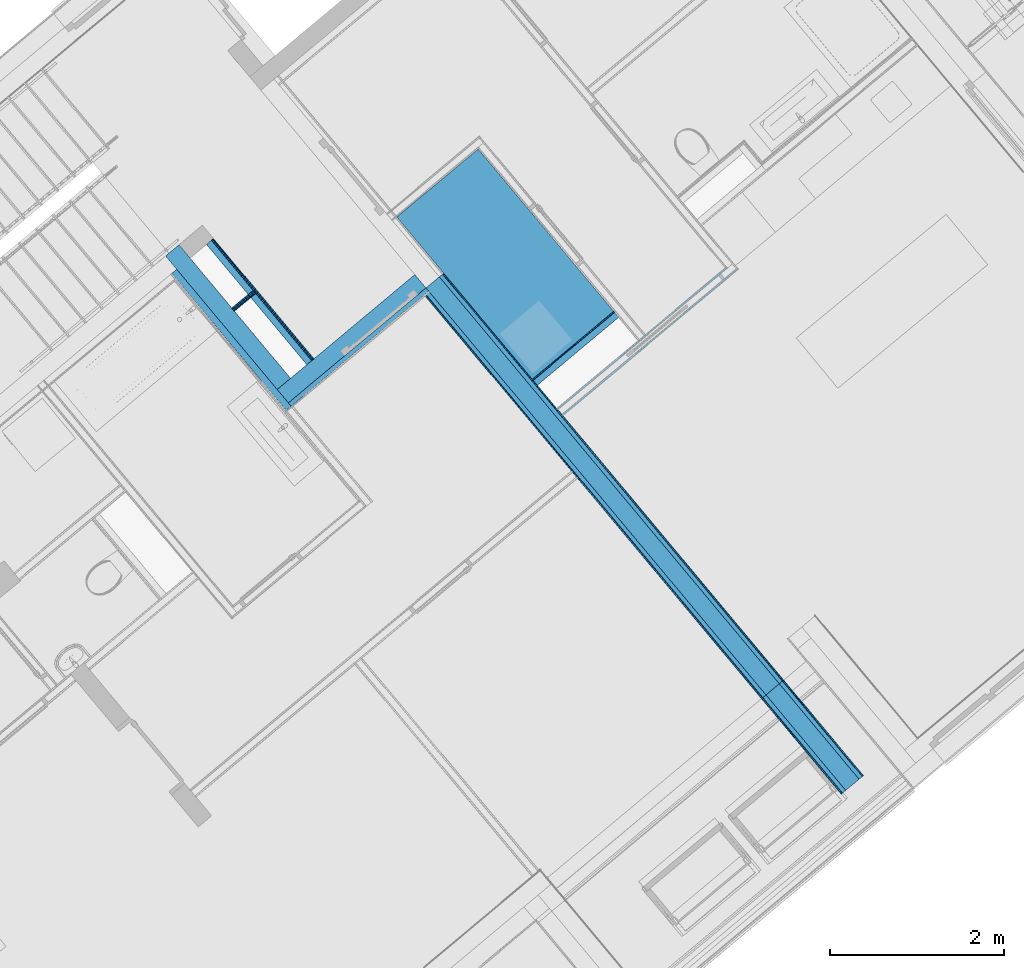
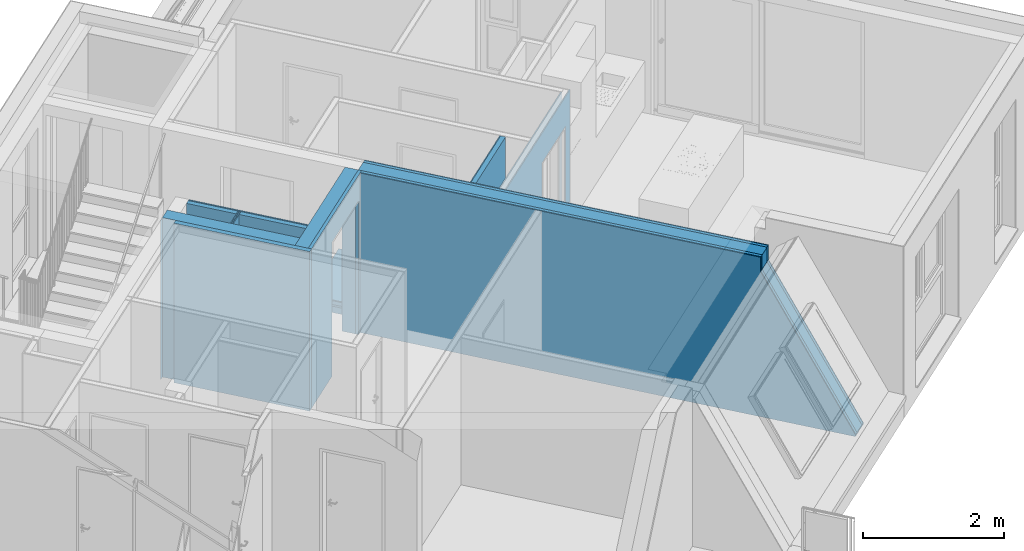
# One storey, part 27 of 58: 21 building element parts, 2 openings, 8 elements without a shape of their own, plus 2 elements that do not belong to this part.
"""IFC4 building model written with IfcOpenShell, lengths in metres."""

from ifc_helpers import new_model, entity, si_unit, converted_unit, derived_unit, direction, frame, origin_with_axes, place, context, subcontext, project, spatial, polygons, material, type_object, element, aggregate, save


model = new_model("IFC4")

# Units and contexts
model_context = context("Model", 3, precision=1e-05, world=origin_with_axes(), true_north=direction((0.0, 1.0)))
body_context = subcontext(model_context, "Body", "Model", "MODEL_VIEW")
ifc_project = project(units=[si_unit("LENGTHUNIT", "METRE"), si_unit("AREAUNIT", "SQUARE_METRE"), si_unit("VOLUMEUNIT", "CUBIC_METRE"), converted_unit("PLANEANGLEUNIT", "DEGREE", entity("IfcPlaneAngleMeasure", 0.0174532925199), si_unit("PLANEANGLEUNIT", "RADIAN"), dimensions=[0, 0, 0, 0, 0, 0, 0]), converted_unit("TIMEUNIT", "Year", entity("IfcTimeMeasure", 31556926.0), si_unit("TIMEUNIT", "SECOND"), dimensions=[0, 0, 1, 0, 0, 0, 0]), si_unit("MASSUNIT", "GRAM", prefix="KILO"), si_unit("THERMODYNAMICTEMPERATUREUNIT", "DEGREE_CELSIUS"), si_unit("LUMINOUSINTENSITYUNIT", "LUMEN"), si_unit("ENERGYUNIT", "JOULE", prefix="MEGA"), derived_unit("THERMALCONDUCTANCEUNIT", [(si_unit("POWERUNIT", "WATT"), 1), (si_unit("LENGTHUNIT", "METRE"), -1), (si_unit("THERMODYNAMICTEMPERATUREUNIT", "KELVIN"), -1)]), derived_unit("SPECIFICHEATCAPACITYUNIT", [(si_unit("ENERGYUNIT", "JOULE"), 1), (si_unit("MASSUNIT", "GRAM", prefix="KILO"), -1), (si_unit("THERMODYNAMICTEMPERATUREUNIT", "KELVIN"), -1)]), derived_unit("MASSDENSITYUNIT", [(si_unit("MASSUNIT", "GRAM", prefix="KILO"), 1), (si_unit("VOLUMEUNIT", "CUBIC_METRE"), -1)])], contexts=[model_context])

# Site, building, storey
site_placement = place(None, frame((-0.00153261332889, -0.00661245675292, 0.0), z_axis=(0.0, 0.0, 1.0), x_axis=(1.0, 0.0, 0.0)))
site = spatial("IfcSite", under=ifc_project, at=site_placement, Name="Site", CompositionType="ELEMENT")
building_placement = place(site_placement, origin_with_axes())
building = spatial("IfcBuilding", under=site, at=building_placement, Name="Building", CompositionType="ELEMENT")
storey_placement = place(building_placement, frame((0.0, 0.0, 5.7), z_axis=(0.0, 0.0, 1.0), x_axis=(1.0, 0.0, 0.0)))
storey = spatial("IfcBuildingStorey", under=building, at=storey_placement, Name="DG1", CompositionType="ELEMENT", Elevation=5.7)

# Wall, building element parts
wall_type_1 = type_object("IfcWallType", Name="LB 9,0 cm einfache Vorsatzschale  90", PredefinedType="NOTDEFINED")
wall_1_placement = place(storey_placement, frame((4.51643765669, 21.1122929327, 0.0), z_axis=(0.0, 0.0, 1.0), x_axis=(0.767365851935, 0.641209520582, 0.0)))
wall_1 = element("IfcWall", 1, at=wall_1_placement, inside=storey, type_object=wall_type_1, Name="Wand-006", PredefinedType="NOTDEFINED")
ifc_material_1 = material(Name="Gipskarton")
building_element_part_1_placement = place(wall_1_placement, origin_with_axes())
building_element_part_1 = element("IfcBuildingElementPart", 2, at=building_element_part_1_placement, material=ifc_material_1, Name="Gipskarton", PredefinedType="NOTDEFINED", context=body_context, shape_type="Tessellation", body=[
    polygons([(1.2200360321, 0.075, 0.0), (4.70949855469e-06, 0.075, 0.0), (5.65139826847e-06, 0.09, 0.0), (1.2200360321, 0.09, 0.0), (1.2200360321, 0.075, 2.76), (4.70949855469e-06, 0.075, 2.76), (5.65139826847e-06, 0.09, 2.76), (1.2200360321, 0.09, 2.76)], [[[1, 2, 3, 4]], [[5, 6, 2, 1]], [[3, 2, 6, 7]], [[4, 3, 7, 8]], [[4, 8, 5, 1]], [[8, 7, 6, 5]]], closed=True),
])
ifc_material_2 = material(Name="Mineralwolle weich")
building_element_part_2_placement = place(wall_1_placement, origin_with_axes())
building_element_part_2 = element("IfcBuildingElementPart", 3, at=building_element_part_2_placement, material=ifc_material_2, Name="Mineralwolle weich", PredefinedType="NOTDEFINED", context=body_context, shape_type="Tessellation", body=[
    polygons([(1.2200360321, 0.075, 0.0), (1.2200360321, 0.0, 0.0), (0.0, 0.0, 0.0), (4.70949855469e-06, 0.075, 0.0), (1.2200360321, 0.075, 2.76), (1.2200360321, 0.0, 2.76), (0.0, 0.0, 2.76), (4.70949855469e-06, 0.075, 2.76)], [[[1, 2, 3, 4]], [[2, 1, 5, 6]], [[2, 6, 7, 3]], [[8, 4, 3, 7]], [[5, 1, 4, 8]], [[6, 5, 8, 7]]], closed=True),
])
aggregate(wall_1, [building_element_part_1, building_element_part_2])

# Wall, opening, building element parts
wall_type_2 = type_object("IfcWallType", Name="IW LB 01 Leichtbautrennwand einfach 10,5 cm 105", PredefinedType="NOTDEFINED")
wall_2_placement = place(storey_placement, frame((4.80804242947, 20.7632711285, 0.0), z_axis=(0.0, 0.0, 1.0), x_axis=(0.767768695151, 0.640727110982, 0.0)))
wall_2 = element("IfcWall", 4, at=wall_2_placement, inside=storey, type_object=wall_type_2, Name="Wand-012", PredefinedType="NOTDEFINED")
opening_1_placement = place(wall_2_placement, frame((1.95933100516, 0.0, 0.22), z_axis=(0.0, 0.0, 1.0), x_axis=(1.0, 0.0, 0.0)))
element("IfcOpeningElement", 5, at=opening_1_placement, cuts=wall_2, Name="Tür-001", context=body_context, identifier="Reference", shape_type="Tessellation", body=[
    polygons([(-0.48, -1.29435140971, -0.22), (-0.48, -1.29435140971, 2.03), (-0.48, 1.39935140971, 2.03), (-0.48, 1.39935140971, -0.22), (-0.48, 0.09, 2.0), (-0.48, 0.015, 2.0), (-0.48, 0.015, 0.0), (-0.48, 0.09, 0.0), (0.48, -1.29435140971, -0.22), (0.48, -1.29435140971, 2.03), (0.48, 1.39935140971, 2.03), (0.48, 1.39935140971, -0.22), (-1.44, 0.09, 2.0), (-1.44, 0.015, 2.0), (-1.44, 0.015, 0.0), (-1.44, 0.09, 0.0)], [[[1, 2, 3, 4], [5, 6, 7, 8]], [[1, 9, 10, 2]], [[2, 10, 11, 3]], [[11, 12, 4, 3]], [[9, 1, 4, 12]], [[6, 5, 13, 14]], [[7, 6, 14, 15]], [[8, 7, 15, 16]], [[5, 8, 16, 13]], [[10, 9, 12, 11]], [[14, 13, 16, 15]]], closed=True),
])
building_element_part_3_placement = place(wall_2_placement, origin_with_axes())
building_element_part_3 = element("IfcBuildingElementPart", 6, at=building_element_part_3_placement, material=ifc_material_1, Name="Gipskarton", PredefinedType="NOTDEFINED", context=body_context, shape_type="Tessellation", body=[
    polygons([(1.47933100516, 0.09, 0.22), (1.47933100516, 0.09, 2.25), (2.43933100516, 0.09, 2.25), (2.43933100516, 0.09, 0.22), (2.43933098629, 0.09, 0.0), (2.53907934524, 0.09, 0.0), (2.53907934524, 0.09, 2.76), (-5.09128512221e-05, 0.09, 2.76), (-5.09128512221e-05, 0.09, 0.0), (1.47933100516, 0.09, 0.0), (1.47933100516, 0.104999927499, 0.22), (1.47933100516, 0.104999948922, 2.25), (2.43933100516, 0.104999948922, 2.25), (2.43933100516, 0.104999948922, 0.22), (2.43933098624, 0.104999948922, 0.0), (2.53906991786, 0.105, 0.0), (2.53906991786, 0.105, 2.76), (-5.9398326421e-05, 0.105, 2.76), (-5.9398326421e-05, 0.105, 0.0), (1.47933100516, 0.104999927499, 0.0)], [[[1, 2, 3, 4, 5, 6, 7, 8, 9, 10]], [[2, 1, 11, 12]], [[3, 2, 12, 13]], [[4, 3, 13, 14]], [[4, 14, 15, 5]], [[15, 16, 6, 5]], [[16, 17, 7, 6]], [[17, 18, 8, 7]], [[19, 9, 8, 18]], [[10, 9, 19, 20]], [[11, 1, 10, 20]], [[12, 11, 20, 19, 18, 17, 16, 15, 14, 13]]], closed=True),
])
building_element_part_4_placement = place(wall_2_placement, origin_with_axes())
building_element_part_4 = element("IfcBuildingElementPart", 7, at=building_element_part_4_placement, material=ifc_material_1, Name="Gipskarton", PredefinedType="NOTDEFINED", context=body_context, shape_type="Tessellation", body=[
    polygons([(1.47933100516, 0.0, 0.22), (1.47933100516, 0.0, 2.25), (2.43933100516, 0.0, 2.25), (2.43933100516, 0.0, 0.22), (2.4393309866, 0.0, 0.0), (2.62913592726, 0.0, 0.0), (2.62913592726, 0.0, 2.76), (0.0, 0.0, 2.76), (0.0, 0.0, 0.0), (1.47933100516, 0.0, 0.0), (1.47933100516, 0.015, 0.22), (1.47933100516, 0.015, 2.25), (2.43933100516, 0.015, 2.25), (2.43933100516, 0.015, 0.22), (2.43933098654, 0.015, 0.0), (2.62912649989, 0.015, 0.0), (2.62912649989, 0.015, 2.76), (-8.48547520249e-06, 0.015, 2.76), (-8.48547520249e-06, 0.015, 0.0), (1.47933100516, 0.015, 0.0)], [[[1, 2, 3, 4, 5, 6, 7, 8, 9, 10]], [[2, 1, 11, 12]], [[3, 2, 12, 13]], [[4, 3, 13, 14]], [[4, 14, 15, 5]], [[15, 16, 6, 5]], [[16, 17, 7, 6]], [[17, 18, 8, 7]], [[19, 9, 8, 18]], [[10, 9, 19, 20]], [[11, 1, 10, 20]], [[12, 11, 20, 19, 18, 17, 16, 15, 14, 13]]], closed=True),
])
aggregate(wall_2, [building_element_part_3, building_element_part_4])

wall_type_3 = type_object("IfcWallType", Name="LB 6,5 cm einfach Vorsatzschale + STB 265", PredefinedType="NOTDEFINED")
wall_3_placement = place(storey_placement, frame((3.107933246, 22.3848863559, 0.0), z_axis=(0.0, 0.0, 1.0), x_axis=(-0.767543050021, -0.640997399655, 0.0)))
wall_3 = element("IfcWall", 8, at=wall_3_placement, inside=storey, type_object=wall_type_3, Name="Wand-003", PredefinedType="NOTDEFINED")
opening_2_placement = place(wall_3_placement, frame((0.67015450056, 0.0, 0.22), z_axis=(0.0, 0.0, 1.0), x_axis=(1.0, 0.0, 0.0)))
element("IfcOpeningElement", 9, at=opening_2_placement, cuts=wall_3, Name="Tür-001", context=body_context, identifier="Reference", shape_type="Tessellation", body=[
    polygons([(0.55, 0.125, 2.1), (-0.55, 0.125, 2.1), (-0.55, -0.916577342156, 2.1), (0.55, -0.916577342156, 2.1), (0.55, 1.18157734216, 2.1), (-0.55, 1.18157734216, 2.1), (-0.55, 0.125, -0.22), (-0.55, -0.916577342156, -0.22), (0.55, -0.916577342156, -0.22), (0.55, 0.125, -0.22), (0.55, 1.18157734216, -0.22), (-0.55, 1.18157734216, -0.22)], [[[1, 2, 3, 4]], [[2, 1, 5, 6]], [[2, 7, 8, 3]], [[3, 8, 9, 4]], [[10, 1, 4, 9]], [[1, 10, 11, 5]], [[5, 11, 12, 6]], [[7, 2, 6, 12]], [[7, 10, 9, 8]], [[10, 7, 12, 11]]], closed=True),
])
building_element_part_5_placement = place(wall_3_placement, origin_with_axes())
building_element_part_5 = element("IfcBuildingElementPart", 10, at=building_element_part_5_placement, material=ifc_material_2, Name="Mineralwolle weich", PredefinedType="NOTDEFINED", context=body_context, shape_type="Tessellation", body=[
    polygons([(1.22015450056, 0.25, 0.0), (1.22015450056, 0.25, 2.32), (0.12015450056, 0.25, 2.32), (0.12015450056, 0.25, 0.0), (9.8700536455e-07, 0.25, 0.0), (9.8700536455e-07, 0.25, 2.76), (2.06088656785, 0.25, 2.76), (2.06088656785, 0.25, 0.0), (1.22015450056, 0.200126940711, 0.0), (1.22015450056, 0.200126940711, 0.22), (1.22015450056, 0.2, 0.22), (1.22015450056, 0.2, 2.32), (0.12015450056, 0.2, 2.32), (0.12015450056, 0.2, 0.0), (-5.20383736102e-09, 0.2, 0.0), (-5.20383736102e-09, 0.2, 2.76), (2.06090038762, 0.2, 2.76), (2.06090038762, 0.2, 0.0), (1.22015450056, 0.2, 0.0)], [[[1, 2, 3, 4, 5, 6, 7, 8]], [[2, 1, 9, 10, 11, 12]], [[3, 2, 12, 13]], [[4, 3, 13, 14]], [[4, 14, 15, 5]], [[5, 15, 16, 6]], [[7, 6, 16, 17]], [[8, 7, 17, 18]], [[9, 1, 8, 18, 19]], [[10, 9, 19, 11]], [[12, 11, 19, 18, 17, 16, 15, 14, 13]]], closed=True),
])
ifc_material_3 = material(Name="Stahlbeton Wand")
building_element_part_6_placement = place(wall_3_placement, origin_with_axes())
building_element_part_6 = element("IfcBuildingElementPart", 11, at=building_element_part_6_placement, material=ifc_material_3, Name="Stahlbeton Wand", PredefinedType="NOTDEFINED", context=body_context, shape_type="Tessellation", body=[
    polygons([(1.22015450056, 0.2, 0.22), (1.22015450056, 0.2, 2.32), (0.12015450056, 0.2, 2.32), (0.12015450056, 0.2, 0.0), (-5.20383380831e-09, 0.2, 0.0), (-5.20383736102e-09, 0.2, 2.76), (2.06090038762, 0.2, 2.76), (2.06090038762, 0.2, 0.0), (1.22015450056, 0.2, 0.0), (1.22015450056, 0.125, 0.22), (1.22015450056, 0.125, 2.32), (0.12015450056, 0.125, 2.32), (0.12015450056, 0.125, 0.0), (0.12015450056, 0.000344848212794, 0.0), (0.120154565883, 0.0, 0.0), (-3.97404064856e-06, 0.0, 0.0), (-3.97404064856e-06, 0.0, 2.76), (2.06095566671, 0.0, 2.76), (2.06095566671, 0.0, 0.0), (1.22015450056, 0.0, 0.0), (1.22015450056, 0.0, 0.22), (1.22015450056, 0.0, 2.32), (0.12015450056, 0.0, 2.32), (0.12015450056, 0.0, 0.22), (0.12015450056, 0.000344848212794, 0.22)], [[[1, 2, 3, 4, 5, 6, 7, 8, 9]], [[2, 1, 10, 11]], [[3, 2, 11, 12]], [[4, 3, 12, 13]], [[4, 13, 14, 15, 16, 5]], [[16, 17, 6, 5]], [[6, 17, 18, 7]], [[7, 18, 19, 8]], [[8, 19, 20, 9]], [[10, 1, 9, 20, 21]], [[11, 10, 21, 22]], [[12, 11, 22, 23]], [[13, 12, 23, 24, 25, 14]], [[24, 15, 14, 25]], [[15, 24, 23, 22, 21, 20, 19, 18, 17, 16]]], closed=True),
])
aggregate(wall_3, [building_element_part_5, building_element_part_6])

# Wall, building element parts
wall_type_4 = type_object("IfcWallType", Name="LB Dreifach Vorsatzschale Schacht 45", PredefinedType="NOTDEFINED")
wall_4_placement = place(storey_placement, frame((1.03476523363, 21.9638652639, 0.0), z_axis=(0.0, 0.0, 1.0), x_axis=(0.767670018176, 0.640845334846, 0.0)))
wall_4 = element("IfcWall", 12, at=wall_4_placement, inside=storey, type_object=wall_type_4, Name="Wand-002", PredefinedType="NOTDEFINED")
building_element_part_7_placement = place(wall_4_placement, origin_with_axes())
building_element_part_7 = element("IfcBuildingElementPart", 13, at=building_element_part_7_placement, material=ifc_material_1, Name="Gipskarton", PredefinedType="NOTDEFINED", context=body_context, shape_type="Tessellation", body=[
    polygons([(0.320121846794, 0.03, 0.0), (0.0, 0.03, 0.0), (0.0, 0.045, 0.0), (0.320121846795, 0.045, 0.0), (0.320121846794, 0.03, 2.76), (0.0, 0.03, 2.76), (0.0, 0.045, 2.76), (0.320121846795, 0.045, 2.76)], [[[1, 2, 3, 4]], [[5, 6, 2, 1]], [[3, 2, 6, 7]], [[4, 3, 7, 8]], [[4, 8, 5, 1]], [[8, 7, 6, 5]]], closed=True),
])
building_element_part_8_placement = place(wall_4_placement, origin_with_axes())
building_element_part_8 = element("IfcBuildingElementPart", 14, at=building_element_part_8_placement, material=ifc_material_1, Name="Gipskarton", PredefinedType="NOTDEFINED", context=body_context, shape_type="Tessellation", body=[
    polygons([(0.320121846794, 0.015, 0.0), (0.0, 0.015, 0.0), (0.0, 0.03, 0.0), (0.320121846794, 0.03, 0.0), (0.320121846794, 0.015, 2.76), (0.0, 0.015, 2.76), (0.0, 0.03, 2.76), (0.320121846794, 0.03, 2.76)], [[[1, 2, 3, 4]], [[5, 6, 2, 1]], [[3, 2, 6, 7]], [[4, 3, 7, 8]], [[4, 8, 5, 1]], [[8, 7, 6, 5]]], closed=True),
])
building_element_part_9_placement = place(wall_4_placement, origin_with_axes())
building_element_part_9 = element("IfcBuildingElementPart", 15, at=building_element_part_9_placement, material=ifc_material_1, Name="Gipskarton", PredefinedType="NOTDEFINED", context=body_context, shape_type="Tessellation", body=[
    polygons([(0.320121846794, 0.0, 0.0), (0.0, 0.0, 0.0), (0.0, 0.015, 0.0), (0.320121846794, 0.015, 0.0), (0.320121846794, 0.0, 2.76), (0.0, 0.0, 2.76), (0.0, 0.015, 2.76), (0.320121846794, 0.015, 2.76)], [[[1, 2, 3, 4]], [[5, 6, 2, 1]], [[3, 2, 6, 7]], [[4, 3, 7, 8]], [[4, 8, 5, 1]], [[8, 7, 6, 5]]], closed=True),
])
aggregate(wall_4, [building_element_part_7, building_element_part_8, building_element_part_9])

wall_type_5 = type_object("IfcWallType", Name="LB 10,5 cm doppelte Vorsatzschale Bad + STB 305", PredefinedType="NOTDEFINED")
wall_5_placement = place(storey_placement, frame((1.67956966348, 21.1920186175, 0.0), z_axis=(0.0, 0.0, 1.0), x_axis=(-0.641209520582, 0.767365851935, 0.0)))
wall_5 = element("IfcWall", 16, at=wall_5_placement, inside=storey, type_object=wall_type_5, Name="Wand-003", PredefinedType="NOTDEFINED")
building_element_part_10_placement = place(wall_5_placement, origin_with_axes())
building_element_part_10 = element("IfcBuildingElementPart", 17, at=building_element_part_10_placement, material=ifc_material_2, Name="Mineralwolle weich", PredefinedType="NOTDEFINED", context=body_context, shape_type="Tessellation", body=[
    polygons([(1.80124005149, 0.2, 0.0), (-0.249944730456, 0.2, 0.0), (-0.249924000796, 0.275, 0.0), (1.80124005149, 0.275, 0.0), (1.80124005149, 0.2, 2.76), (-0.249944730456, 0.2, 2.76), (-0.249924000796, 0.275, 2.76), (1.80124005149, 0.275, 2.76)], [[[1, 2, 3, 4]], [[5, 6, 2, 1]], [[3, 2, 6, 7]], [[4, 3, 7, 8]], [[4, 8, 5, 1]], [[8, 7, 6, 5]]], closed=True),
    polygons([(2.00128767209, 0.275, 0.0), (2.00128767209, 0.2, 0.0), (2.00124005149, 0.2, 0.0), (2.00124005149, 0.275, 0.0), (2.00128767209, 0.275, 2.76), (2.00128767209, 0.2, 2.76), (2.00124005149, 0.2, 2.76), (2.00124005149, 0.275, 2.76)], [[[1, 2, 3, 4]], [[1, 5, 6, 2]], [[2, 6, 7, 3]], [[4, 3, 7, 8]], [[5, 1, 4, 8]], [[6, 5, 8, 7]]], closed=True),
])
building_element_part_11_placement = place(wall_5_placement, origin_with_axes())
building_element_part_11 = element("IfcBuildingElementPart", 18, at=building_element_part_11_placement, material=ifc_material_3, Name="Stahlbeton Wand", PredefinedType="NOTDEFINED", context=body_context, shape_type="Tessellation", body=[
    polygons([(5.52790931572e-05, 0.2, 0.0), (2.00128767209, 0.2, 0.0), (2.00128767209, 0.0, 0.0), (0.0, 0.0, 0.0), (5.52790931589e-05, 0.2, 2.76), (2.00128767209, 0.2, 2.76), (2.00128767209, 0.0, 2.76), (0.0, 0.0, 2.76)], [[[1, 2, 3, 4]], [[5, 6, 2, 1]], [[3, 2, 6, 7]], [[4, 3, 7, 8]], [[5, 1, 4, 8]], [[8, 7, 6, 5]]], closed=True),
])
aggregate(wall_5, [building_element_part_10, building_element_part_11])

wall_type_6 = type_object("IfcWallType", Name="LB 10,5 cm doppelte Vorsatzschale Bad 105", PredefinedType="NOTDEFINED")
wall_6_placement = place(storey_placement, frame((0.71304114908, 22.7317569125, 0.0), z_axis=(0.0, 0.0, 1.0), x_axis=(0.640845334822, -0.767670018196, 0.0)))
wall_6 = element("IfcWall", 19, at=wall_6_placement, inside=storey, type_object=wall_type_6, Name="Wand-004", PredefinedType="NOTDEFINED")
building_element_part_12_placement = place(wall_6_placement, origin_with_axes())
building_element_part_12 = element("IfcBuildingElementPart", 20, at=building_element_part_12_placement, material=ifc_material_1, Name="Gipskarton", PredefinedType="NOTDEFINED", context=body_context, shape_type="Tessellation", body=[
    polygons([(1.80133989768, 0.09, 0.0), (0.0, 0.09, 0.0), (0.0, 0.105, 0.0), (1.80133692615, 0.105, 0.0), (1.80133989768, 0.09, 2.76), (0.0, 0.09, 2.76), (0.0, 0.105, 2.76), (1.80133692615, 0.105, 2.76)], [[[1, 2, 3, 4]], [[5, 6, 2, 1]], [[3, 2, 6, 7]], [[4, 3, 7, 8]], [[4, 8, 5, 1]], [[8, 7, 6, 5]]], closed=True),
])
building_element_part_13_placement = place(wall_6_placement, origin_with_axes())
building_element_part_13 = element("IfcBuildingElementPart", 21, at=building_element_part_13_placement, material=ifc_material_1, Name="Gipskarton", PredefinedType="NOTDEFINED", context=body_context, shape_type="Tessellation", body=[
    polygons([(1.80134286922, 0.075, 0.0), (0.0, 0.075, 0.0), (0.0, 0.09, 0.0), (1.80133989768, 0.09, 0.0), (1.80134286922, 0.075, 2.76), (0.0, 0.075, 2.76), (0.0, 0.09, 2.76), (1.80133989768, 0.09, 2.76)], [[[1, 2, 3, 4]], [[5, 6, 2, 1]], [[3, 2, 6, 7]], [[4, 3, 7, 8]], [[4, 8, 5, 1]], [[8, 7, 6, 5]]], closed=True),
])
building_element_part_14_placement = place(wall_6_placement, origin_with_axes())
building_element_part_14 = element("IfcBuildingElementPart", 22, at=building_element_part_14_placement, material=ifc_material_2, Name="Mineralwolle weich", PredefinedType="NOTDEFINED", context=body_context, shape_type="Tessellation", body=[
    polygons([(0.750662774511, 0.075, 0.0), (0.750662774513, 0.0, 0.0), (0.0, 0.0, 0.0), (0.0, 0.075, 0.0), (0.750662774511, 0.075, 2.76), (0.750662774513, 0.0, 2.76), (0.0, 0.0, 2.76), (0.0, 0.075, 2.76)], [[[1, 2, 3, 4]], [[2, 1, 5, 6]], [[2, 6, 7, 3]], [[8, 4, 3, 7]], [[5, 1, 4, 8]], [[6, 5, 8, 7]]], closed=True),
    polygons([(1.80134286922, 0.075, 0.0), (1.80135772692, 0.0, 0.0), (0.795662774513, 0.0, 0.0), (0.795662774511, 0.075, 0.0), (1.80134286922, 0.075, 2.76), (1.80135772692, 0.0, 2.76), (0.795662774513, 0.0, 2.76), (0.795662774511, 0.075, 2.76)], [[[1, 2, 3, 4]], [[2, 1, 5, 6]], [[2, 6, 7, 3]], [[8, 4, 3, 7]], [[5, 1, 4, 8]], [[6, 5, 8, 7]]], closed=True),
])
aggregate(wall_6, [building_element_part_12, building_element_part_13, building_element_part_14])

wall_type_7 = type_object("IfcWallType", Name="LB 6,5 cm einfach Vorsatzschale + STB + Schale 330", PredefinedType="NOTDEFINED")
wall_7_placement = place(storey_placement, frame((8.2655811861, 16.6249423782, 0.0), z_axis=(0.0, 0.0, 1.0), x_axis=(-0.641161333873, 0.767406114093, 0.0)))
wall_7 = element("IfcWall", 23, at=wall_7_placement, inside=storey, type_object=wall_type_7, Name="Wand-003", PredefinedType="NOTDEFINED")
building_element_part_15_placement = place(wall_7_placement, origin_with_axes())
building_element_part_15 = element("IfcBuildingElementPart", 24, at=building_element_part_15_placement, material=ifc_material_1, Name="Gipskarton", PredefinedType="NOTDEFINED", context=body_context, shape_type="Tessellation", body=[
    polygons([(1.43032771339, 0.315, 2.76), (1.43032771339, 0.315, 2.50827635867), (0.0, 0.315, 0.0308765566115), (0.0, 0.315, 0.0), (7.52673684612, 0.315, 0.0), (7.52673684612, 0.315, 2.76), (1.43031909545, 0.33, 2.76), (1.43031909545, 0.33, 2.50827741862), (0.0, 0.33, 0.0308925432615), (0.0, 0.33, 0.0), (7.52673684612, 0.33, 0.0), (7.52673684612, 0.33, 2.76)], [[[1, 2, 3, 4, 5, 6]], [[2, 1, 7, 8]], [[9, 3, 2, 8]], [[3, 9, 10, 4]], [[5, 4, 10, 11]], [[12, 6, 5, 11]], [[7, 1, 6, 12]], [[8, 7, 12, 11, 10, 9]]], closed=True),
])
building_element_part_16_placement = place(wall_7_placement, origin_with_axes())
building_element_part_16 = element("IfcBuildingElementPart", 25, at=building_element_part_16_placement, material=ifc_material_2, Name="Mineralwolle weich", PredefinedType="NOTDEFINED", context=body_context, shape_type="Tessellation", body=[
    polygons([(1.43035643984, 0.265, 2.76), (1.43035643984, 0.265, 2.5082728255), (0.0, 0.265, 0.0308232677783), (0.0, 0.265, 0.0), (7.52673684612, 0.265, 0.0), (7.52673684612, 0.265, 2.76), (1.43032771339, 0.315, 2.76), (1.43032771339, 0.315, 2.50827635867), (0.0, 0.315, 0.0308765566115), (0.0, 0.315, 0.0), (7.52673684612, 0.315, 0.0), (7.52673684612, 0.315, 2.76)], [[[1, 2, 3, 4, 5, 6]], [[2, 1, 7, 8]], [[9, 3, 2, 8]], [[3, 9, 10, 4]], [[5, 4, 10, 11]], [[12, 6, 5, 11]], [[7, 1, 6, 12]], [[8, 7, 12, 11, 10, 9]]], closed=True),
])
building_element_part_17_placement = place(wall_7_placement, origin_with_axes())
building_element_part_17 = element("IfcBuildingElementPart", 26, at=building_element_part_17_placement, material=ifc_material_3, Name="Stahlbeton Wand", PredefinedType="NOTDEFINED", context=body_context, shape_type="Tessellation", body=[
    polygons([(1.43047134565, 0.065, 2.76), (1.43047134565, 0.065, 2.50825869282), (0.0, 0.065, 0.0306101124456), (0.0, 0.065, 0.0), (7.52673684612, 0.065, 0.0), (7.52673684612, 0.065, 2.76), (1.43035643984, 0.265, 2.76), (1.43035643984, 0.265, 2.5082728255), (0.0, 0.265, 0.0308232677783), (0.0, 0.265, 0.0), (7.52673684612, 0.265, 0.0), (7.52673684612, 0.265, 2.76)], [[[1, 2, 3, 4, 5, 6]], [[2, 1, 7, 8]], [[9, 3, 2, 8]], [[3, 9, 10, 4]], [[5, 4, 10, 11]], [[12, 6, 5, 11]], [[7, 1, 6, 12]], [[8, 7, 12, 11, 10, 9]]], closed=True),
])
building_element_part_18_placement = place(wall_7_placement, origin_with_axes())
building_element_part_18 = element("IfcBuildingElementPart", 27, at=building_element_part_18_placement, material=ifc_material_2, Name="Mineralwolle weich", PredefinedType="NOTDEFINED", context=body_context, shape_type="Tessellation", body=[
    polygons([(1.4305000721, 0.015, 2.76), (1.4305000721, 0.015, 2.50825515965), (0.0, 0.015, 0.0305568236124), (0.0, 0.015, 0.0), (7.52673684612, 0.015, 0.0), (7.52673684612, 0.015, 2.76), (1.43047134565, 0.065, 2.76), (1.43047134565, 0.065, 2.50825869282), (0.0, 0.065, 0.0306101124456), (0.0, 0.065, 0.0), (7.52673684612, 0.065, 0.0), (7.52673684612, 0.065, 2.76)], [[[1, 2, 3, 4, 5, 6]], [[2, 1, 7, 8]], [[9, 3, 2, 8]], [[3, 9, 10, 4]], [[5, 4, 10, 11]], [[12, 6, 5, 11]], [[7, 1, 6, 12]], [[8, 7, 12, 11, 10, 9]]], closed=True),
])
building_element_part_19_placement = place(wall_7_placement, origin_with_axes())
building_element_part_19 = element("IfcBuildingElementPart", 28, at=building_element_part_19_placement, material=ifc_material_1, Name="Gipskarton", PredefinedType="NOTDEFINED", context=body_context, shape_type="Tessellation", body=[
    polygons([(1.43050869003, 0.0, 2.76), (1.43050869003, 0.0, 2.5082540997), (-1.27117871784e-10, 0.0, 0.0305408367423), (0.0, 0.0, 0.0), (7.52673684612, 0.0, 0.0), (7.52673684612, 0.0, 2.76), (1.4305000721, 0.015, 2.76), (1.4305000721, 0.015, 2.50825515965), (0.0, 0.015, 0.0305568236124), (0.0, 0.015, 0.0), (7.52673684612, 0.015, 0.0), (7.52673684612, 0.015, 2.76)], [[[1, 2, 3, 4, 5, 6]], [[2, 1, 7, 8]], [[9, 3, 2, 8]], [[3, 9, 10, 4]], [[5, 4, 10, 11]], [[12, 6, 5, 11]], [[7, 1, 6, 12]], [[8, 7, 12, 11, 10, 9]]], closed=True),
])
aggregate(wall_7, [building_element_part_15, building_element_part_16, building_element_part_17, building_element_part_18, building_element_part_19])

# Covering, building element parts
covering_type = type_object("IfcCoveringType", Name="DE 01 Decke Wohnung/Wohnung Fließen 220", PredefinedType="NOTDEFINED")
covering_placement = place(storey_placement, frame((2.89957040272, 23.0457904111, 0.22), z_axis=(0.0, 0.0, 1.0), x_axis=(1.0, 0.0, 0.0)))
covering = element("IfcCovering", 29, at=covering_placement, inside=storey, type_object=covering_type, Name="Decke-001", PredefinedType="NOTDEFINED")
ifc_material_4 = material(Name="Fliesen")
building_element_part_20_placement = place(covering_placement, origin_with_axes())
building_element_part_20 = element("IfcBuildingElementPart", 30, at=building_element_part_20_placement, material=ifc_material_4, Name="Fliesen", PredefinedType="NOTDEFINED", context=body_context, shape_type="Tessellation", body=[
    polygons([(0.540158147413, -0.644784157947, -0.015), (0.540158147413, -0.644784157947, 0.0), (0.00100245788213, 0.00083765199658, 0.0), (0.00100245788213, 0.00083765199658, -0.015), (1.55916273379, -1.8644309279, -0.015), (1.55916273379, -1.8644309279, 0.0), (2.49537238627, -1.0821358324, 0.0), (0.936944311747, 0.782908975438, 0.0), (0.936944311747, 0.782908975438, -0.015), (2.49537238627, -1.0821358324, -0.015)], [[[1, 2, 3, 4]], [[2, 1, 5, 6]], [[2, 6, 7, 8, 3]], [[4, 3, 8, 9]], [[5, 1, 4, 9, 10]], [[6, 5, 10, 7]], [[8, 7, 10, 9]]], closed=True),
])
ifc_material_5 = material(Name="Estrich")
building_element_part_21_placement = place(covering_placement, origin_with_axes())
building_element_part_21 = element("IfcBuildingElementPart", 31, at=building_element_part_21_placement, material=ifc_material_5, Name="Estrich", PredefinedType="NOTDEFINED", context=body_context, shape_type="Tessellation", body=[
    polygons([(0.540158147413, -0.644784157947, -0.08), (0.540158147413, -0.644784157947, -0.015), (0.00100245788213, 0.000837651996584, -0.015), (0.00100245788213, 0.000837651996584, -0.08), (1.55916273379, -1.8644309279, -0.08), (1.55916273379, -1.8644309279, -0.015), (2.49537238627, -1.0821358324, -0.015), (0.936944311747, 0.782908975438, -0.015), (0.936944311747, 0.782908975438, -0.08), (2.49537238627, -1.0821358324, -0.08)], [[[1, 2, 3, 4]], [[2, 1, 5, 6]], [[2, 6, 7, 8, 3]], [[4, 3, 8, 9]], [[5, 1, 4, 9, 10]], [[6, 5, 10, 7]], [[7, 10, 9, 8]]], closed=True),
])
ifc_material_6 = material(Name="Trittschalldämmung")
building_element_part_22_placement = place(covering_placement, origin_with_axes())
building_element_part_22 = element("IfcBuildingElementPart", 32, at=building_element_part_22_placement, material=ifc_material_6, Name="Trittschalldämmung", PredefinedType="NOTDEFINED", context=body_context, shape_type="Tessellation", body=[
    polygons([(0.540158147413, -0.644784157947, -0.11), (0.540158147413, -0.644784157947, -0.08), (0.00100245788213, 0.00083765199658, -0.08), (0.00100245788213, 0.00083765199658, -0.11), (1.55916273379, -1.8644309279, -0.11), (1.55916273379, -1.8644309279, -0.08), (2.49537238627, -1.0821358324, -0.08), (0.936944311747, 0.782908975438, -0.08), (0.936944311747, 0.782908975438, -0.11), (2.49537238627, -1.0821358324, -0.11)], [[[1, 2, 3, 4]], [[2, 1, 5, 6]], [[2, 6, 7, 8, 3]], [[4, 3, 8, 9]], [[5, 1, 4, 9, 10]], [[6, 5, 10, 7]], [[7, 10, 9, 8]]], closed=True),
])
ifc_material_7 = material(Name="Schüttung")
building_element_part_23_placement = place(covering_placement, origin_with_axes())
building_element_part_23 = element("IfcBuildingElementPart", 33, at=building_element_part_23_placement, material=ifc_material_7, Name="Schüttung", PredefinedType="NOTDEFINED", context=body_context, shape_type="Tessellation", body=[
    polygons([(0.00100245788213, 0.000837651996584, -0.22), (0.540158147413, -0.644784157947, -0.22), (0.540158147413, -0.644784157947, -0.11), (0.00100245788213, 0.000837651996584, -0.11), (1.55916273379, -1.8644309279, -0.22), (0.936944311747, 0.782908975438, -0.22), (2.49537238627, -1.0821358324, -0.22), (1.55916273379, -1.8644309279, -0.11), (2.49537238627, -1.0821358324, -0.11), (0.936944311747, 0.782908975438, -0.11)], [[[1, 2, 3, 4]], [[5, 2, 1, 6, 7]], [[2, 5, 8, 3]], [[4, 3, 8, 9, 10]], [[1, 4, 10, 6]], [[6, 10, 9, 7]], [[8, 5, 7, 9]]], closed=True),
])
aggregate(covering, [building_element_part_20, building_element_part_21, building_element_part_22, building_element_part_23])

save(model, "model.ifc")
